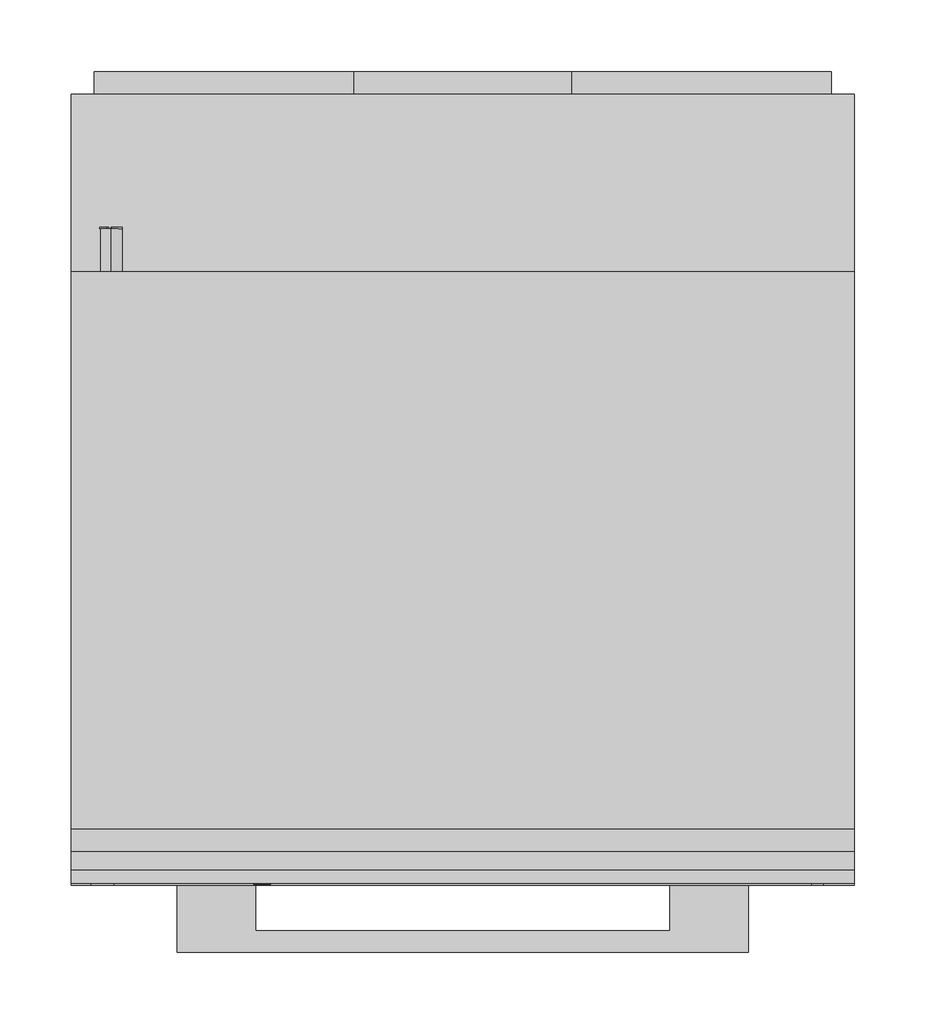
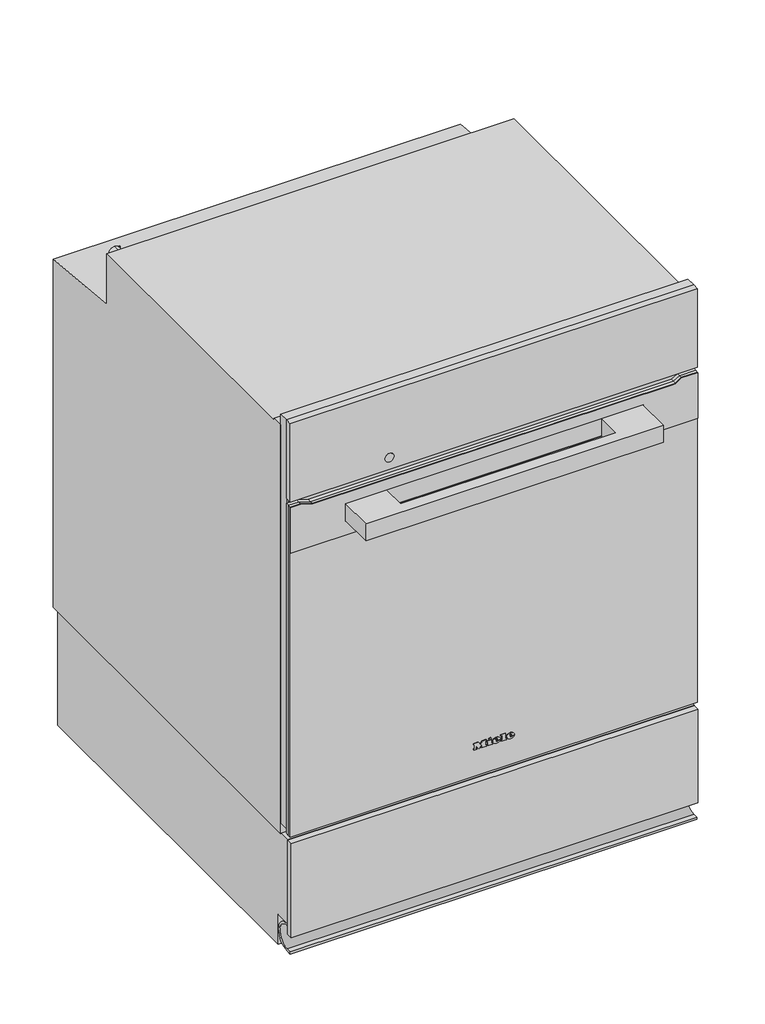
# Not in any storey: 1 proxy.
"""IFC4 building model written with IfcOpenShell, lengths in millimetres."""

from ifc_helpers import new_model, si_unit, origin, place, context, project, spatial, transform, mapped, element, save
from components import specialty_equipment_7ac008b5

model = new_model("IFC4")

# Units and contexts
model_context = context("Model", 3, world=origin())
ifc_project = project(units=[si_unit("LENGTHUNIT", "METRE", prefix="MILLI")], contexts=[model_context])

# Site, building
site = spatial("IfcSite", under=ifc_project)
building = spatial("IfcBuilding", under=site)

# Proxy
placement = place(None, origin())
specialty_equipment_shape = specialty_equipment_7ac008b5(model_context)
element("IfcBuildingElementProxy", 1, Name="11790260_CH_DGC7450-55_EDST-CLS : 22745092_CH_11790260_DGC7450-55_EDST-CLS", ObjectType="11790260_CH_DGC7450-55_EDST-CLS : 22745092_CH_11790260_DGC7450-55_EDST-CLS", at=placement, inside=building, context=model_context, shape_type="MappedRepresentation", body=[
    mapped(specialty_equipment_shape, transform((0.0, 0.0, 0.0), x_axis=(1.0, 0.0, 0.0), y_axis=(0.0, 1.0, 0.0), z_axis=(0.0, 0.0, 1.0))),
])

save(model, "model.ifc")
